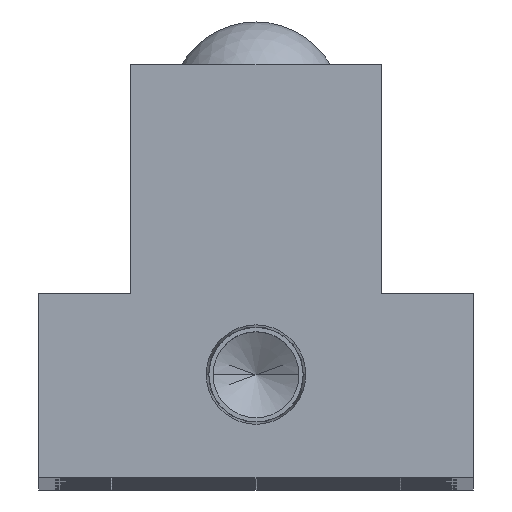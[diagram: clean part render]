
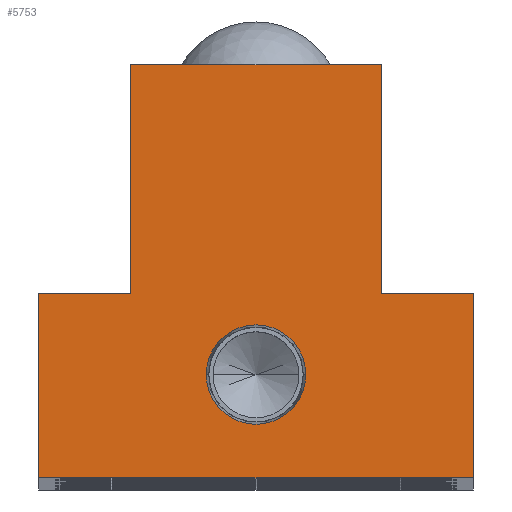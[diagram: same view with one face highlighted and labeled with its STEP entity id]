
A CAD part, top view. The second image highlights one B-rep face of the part: STEP entity #5753.
In plain terms, the highlighted planar face has unit normal (0, 0, 1).
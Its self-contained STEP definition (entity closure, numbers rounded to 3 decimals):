
#38 = VERTEX_POINT ( 'NONE', #10023 ) ;
#59 = ORIENTED_EDGE ( 'NONE', *, *, #11291, .T. ) ;
#135 = LINE ( 'NONE', #235, #9105 ) ;
#235 = CARTESIAN_POINT ( 'NONE',  ( 20., 17., 0. ) ) ;
#740 = CARTESIAN_POINT ( 'NONE',  ( 20., 0., 0. ) ) ;
#1536 = FACE_OUTER_BOUND ( 'NONE', #7902, .T. ) ;
#1541 = VERTEX_POINT ( 'NONE', #9447 ) ;
#1553 = CARTESIAN_POINT ( 'NONE',  ( 0., 9.5, 0. ) ) ;
#1593 = CARTESIAN_POINT ( 'NONE',  ( -11.5, 38., 0. ) ) ;
#2189 = VERTEX_POINT ( 'NONE', #3431 ) ;
#2236 = EDGE_CURVE ( 'NONE', #1541, #8073, #5119, .T. ) ;
#2277 = ORIENTED_EDGE ( 'NONE', *, *, #10770, .T. ) ;
#2469 = CARTESIAN_POINT ( 'NONE',  ( 0., 9.5, 0. ) ) ;
#2503 = CIRCLE ( 'NONE', #10450, 4.574 ) ;
#2521 = CARTESIAN_POINT ( 'NONE',  ( 20., 17., 0. ) ) ;
#2731 = DIRECTION ( 'NONE',  ( 1., 0., 0. ) ) ;
#3267 = EDGE_CURVE ( 'NONE', #10197, #1541, #13698, .T. ) ;
#3397 = VECTOR ( 'NONE', #11226, 1000. ) ;
#3431 = CARTESIAN_POINT ( 'NONE',  ( 11.5, 38., 0. ) ) ;
#3547 = CARTESIAN_POINT ( 'NONE',  ( 11.5, 38., 0. ) ) ;
#3646 = DIRECTION ( 'NONE',  ( 1., 0., 0. ) ) ;
#3959 = ORIENTED_EDGE ( 'NONE', *, *, #11246, .F. ) ;
#4259 = VERTEX_POINT ( 'NONE', #7049 ) ;
#4374 = DIRECTION ( 'NONE',  ( -1., 0., 0. ) ) ;
#4951 = DIRECTION ( 'NONE',  ( 0., 1., 0. ) ) ;
#5119 = LINE ( 'NONE', #14154, #11699 ) ;
#5369 = FACE_BOUND ( 'NONE', #8350, .T. ) ;
#5604 = LINE ( 'NONE', #9643, #14616 ) ;
#5753 = ADVANCED_FACE ( 'NONE', ( #5369, #1536 ), #6615, .F. ) ;
#5897 = DIRECTION ( 'NONE',  ( -1., 0., 0. ) ) ;
#5984 = VECTOR ( 'NONE', #14271, 1000. ) ;
#6047 = DIRECTION ( 'NONE',  ( -1., 0., 0. ) ) ;
#6194 = ORIENTED_EDGE ( 'NONE', *, *, #3267, .T. ) ;
#6456 = VERTEX_POINT ( 'NONE', #1593 ) ;
#6615 = PLANE ( 'NONE',  #10744 ) ;
#7049 = CARTESIAN_POINT ( 'NONE',  ( 20., 17., 0. ) ) ;
#7121 = DIRECTION ( 'NONE',  ( 1., 0., 0. ) ) ;
#7313 = DIRECTION ( 'NONE',  ( 0., -1., 0. ) ) ;
#7437 = VECTOR ( 'NONE', #5897, 1000. ) ;
#7847 = CARTESIAN_POINT ( 'NONE',  ( 0., 0., 0. ) ) ;
#7902 = EDGE_LOOP ( 'NONE', ( #59, #10290, #12393, #14435, #2277, #6194, #14086, #8254 ) ) ;
#7972 = VECTOR ( 'NONE', #6047, 1000. ) ;
#8073 = VERTEX_POINT ( 'NONE', #740 ) ;
#8169 = LINE ( 'NONE', #3547, #7437 ) ;
#8254 = ORIENTED_EDGE ( 'NONE', *, *, #10250, .T. ) ;
#8350 = EDGE_LOOP ( 'NONE', ( #11453, #3959 ) ) ;
#9105 = VECTOR ( 'NONE', #4951, 1000. ) ;
#9430 = VERTEX_POINT ( 'NONE', #10227 ) ;
#9447 = CARTESIAN_POINT ( 'NONE',  ( -20., 0., 0. ) ) ;
#9467 = LINE ( 'NONE', #10726, #5984 ) ;
#9643 = CARTESIAN_POINT ( 'NONE',  ( 11.5, 17., 0. ) ) ;
#9650 = LINE ( 'NONE', #10052, #3397 ) ;
#9669 = CARTESIAN_POINT ( 'NONE',  ( -20., 0., 0. ) ) ;
#9734 = DIRECTION ( 'NONE',  ( 0., 0., 1. ) ) ;
#9875 = AXIS2_PLACEMENT_3D ( 'NONE', #2469, #10667, #3646 ) ;
#10023 = CARTESIAN_POINT ( 'NONE',  ( 4.574, 9.5, 0. ) ) ;
#10052 = CARTESIAN_POINT ( 'NONE',  ( -11.5, 17., 0. ) ) ;
#10197 = VERTEX_POINT ( 'NONE', #14237 ) ;
#10202 = VECTOR ( 'NONE', #7313, 1000. ) ;
#10227 = CARTESIAN_POINT ( 'NONE',  ( -4.574, 9.5, 0. ) ) ;
#10250 = EDGE_CURVE ( 'NONE', #8073, #4259, #135, .T. ) ;
#10290 = ORIENTED_EDGE ( 'NONE', *, *, #10810, .T. ) ;
#10450 = AXIS2_PLACEMENT_3D ( 'NONE', #1553, #9734, #2731 ) ;
#10667 = DIRECTION ( 'NONE',  ( 0., 0., 1. ) ) ;
#10726 = CARTESIAN_POINT ( 'NONE',  ( -11.5, 17., 0. ) ) ;
#10744 = AXIS2_PLACEMENT_3D ( 'NONE', #7847, #11381, #4374 ) ;
#10770 = EDGE_CURVE ( 'NONE', #13172, #10197, #9467, .T. ) ;
#10810 = EDGE_CURVE ( 'NONE', #12659, #2189, #5604, .T. ) ;
#10827 = EDGE_CURVE ( 'NONE', #38, #9430, #2503, .T. ) ;
#10981 = EDGE_CURVE ( 'NONE', #6456, #13172, #9650, .T. ) ;
#11226 = DIRECTION ( 'NONE',  ( 0., -1., 0. ) ) ;
#11246 = EDGE_CURVE ( 'NONE', #9430, #38, #11454, .T. ) ;
#11291 = EDGE_CURVE ( 'NONE', #4259, #12659, #14605, .T. ) ;
#11381 = DIRECTION ( 'NONE',  ( 0., 0., -1. ) ) ;
#11453 = ORIENTED_EDGE ( 'NONE', *, *, #10827, .F. ) ;
#11454 = CIRCLE ( 'NONE', #9875, 4.574 ) ;
#11699 = VECTOR ( 'NONE', #7121, 1000. ) ;
#11990 = DIRECTION ( 'NONE',  ( 0., 1., 0. ) ) ;
#12393 = ORIENTED_EDGE ( 'NONE', *, *, #12831, .T. ) ;
#12448 = CARTESIAN_POINT ( 'NONE',  ( -11.5, 17., 0. ) ) ;
#12659 = VERTEX_POINT ( 'NONE', #13712 ) ;
#12831 = EDGE_CURVE ( 'NONE', #2189, #6456, #8169, .T. ) ;
#13172 = VERTEX_POINT ( 'NONE', #12448 ) ;
#13698 = LINE ( 'NONE', #9669, #10202 ) ;
#13712 = CARTESIAN_POINT ( 'NONE',  ( 11.5, 17., 0. ) ) ;
#14086 = ORIENTED_EDGE ( 'NONE', *, *, #2236, .T. ) ;
#14154 = CARTESIAN_POINT ( 'NONE',  ( 20., 0., 0. ) ) ;
#14237 = CARTESIAN_POINT ( 'NONE',  ( -20., 17., 0. ) ) ;
#14271 = DIRECTION ( 'NONE',  ( -1., 0., 0. ) ) ;
#14435 = ORIENTED_EDGE ( 'NONE', *, *, #10981, .T. ) ;
#14605 = LINE ( 'NONE', #2521, #7972 ) ;
#14616 = VECTOR ( 'NONE', #11990, 1000. ) ;
